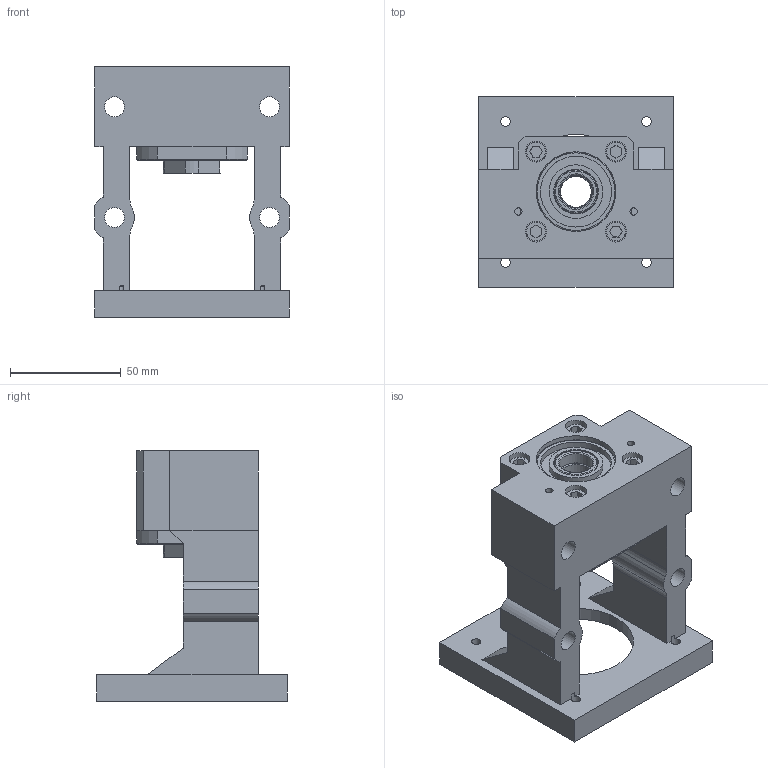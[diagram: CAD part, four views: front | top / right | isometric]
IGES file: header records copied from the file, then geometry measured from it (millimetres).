
Start section: SolidWorks IGES file using analytic representation for surfaces
Global section: file name: C:\Users\117\Desktop\MBCA15-EP.IGS; native system: SolidWorks 2018; preprocessor: SolidWorks 2018; author: 117; date: 181024.154329; units: millimetre
Bounding box: 88 x 86 x 113 mm (x, y, z)
Surface area: 61232.1 mm2 (no closed solid volume)
Topology: 0 solids, 0 shells, 167 faces, 915 edges, 863 vertices
Faces by surface type: bspline 94, revolution 73
